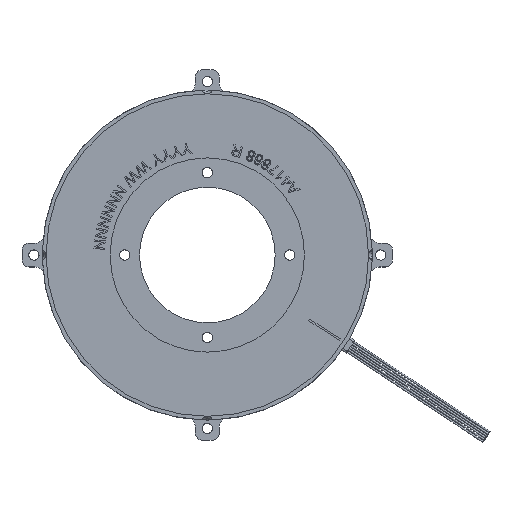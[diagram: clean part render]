
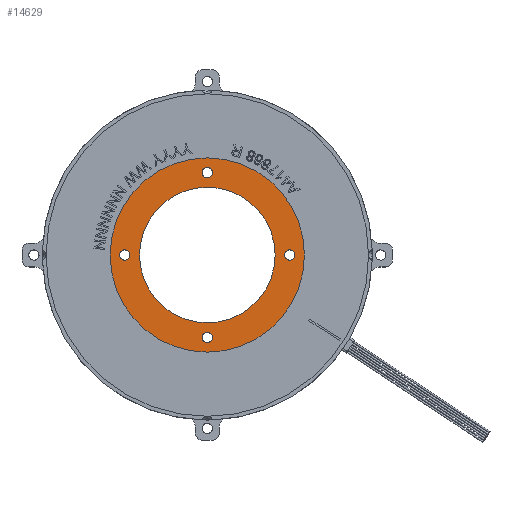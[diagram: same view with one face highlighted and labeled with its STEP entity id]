
A CAD part, top view. The second image highlights one B-rep face of the part: STEP entity #14629.
In plain terms, the highlighted planar face has unit normal (0, 0, 1).
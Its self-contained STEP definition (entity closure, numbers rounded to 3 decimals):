
#562=CIRCLE('',#15580,1.4);
#563=CIRCLE('',#15581,1.4);
#564=CIRCLE('',#15582,1.4);
#565=CIRCLE('',#15583,1.4);
#566=CIRCLE('',#15584,18.5);
#567=CIRCLE('',#15585,26.5);
#3078=ORIENTED_EDGE('',*,*,#5536,.F.);
#3079=ORIENTED_EDGE('',*,*,#5537,.F.);
#3080=ORIENTED_EDGE('',*,*,#5538,.F.);
#3081=ORIENTED_EDGE('',*,*,#5539,.F.);
#3082=ORIENTED_EDGE('',*,*,#5540,.T.);
#3083=ORIENTED_EDGE('',*,*,#5541,.F.);
#5536=EDGE_CURVE('',#6960,#6960,#562,.T.);
#5537=EDGE_CURVE('',#6961,#6961,#563,.T.);
#5538=EDGE_CURVE('',#6962,#6962,#564,.T.);
#5539=EDGE_CURVE('',#6963,#6963,#565,.T.);
#5540=EDGE_CURVE('',#6964,#6964,#566,.T.);
#5541=EDGE_CURVE('',#6965,#6965,#567,.T.);
#6960=VERTEX_POINT('',#24078);
#6961=VERTEX_POINT('',#24080);
#6962=VERTEX_POINT('',#24082);
#6963=VERTEX_POINT('',#24084);
#6964=VERTEX_POINT('',#24086);
#6965=VERTEX_POINT('',#24088);
#10307=EDGE_LOOP('',(#3078));
#10308=EDGE_LOOP('',(#3079));
#10309=EDGE_LOOP('',(#3080));
#10310=EDGE_LOOP('',(#3081));
#10311=EDGE_LOOP('',(#3082));
#10312=EDGE_LOOP('',(#3083));
#11229=FACE_BOUND('',#10307,.T.);
#11230=FACE_BOUND('',#10308,.T.);
#11231=FACE_BOUND('',#10309,.T.);
#11232=FACE_BOUND('',#10310,.T.);
#11233=FACE_BOUND('',#10311,.T.);
#11234=FACE_BOUND('',#10312,.T.);
#11871=PLANE('',#15579);
#14629=ADVANCED_FACE('',(#11229,#11230,#11231,#11232,#11233,#11234),#11871,
 .T.);
#15579=AXIS2_PLACEMENT_3D('',#24076,#17962,#17963);
#15580=AXIS2_PLACEMENT_3D('',#24077,#17964,#17965);
#15581=AXIS2_PLACEMENT_3D('',#24079,#17966,#17967);
#15582=AXIS2_PLACEMENT_3D('',#24081,#17968,#17969);
#15583=AXIS2_PLACEMENT_3D('',#24083,#17970,#17971);
#15584=AXIS2_PLACEMENT_3D('',#24085,#17972,#17973);
#15585=AXIS2_PLACEMENT_3D('',#24087,#17974,#17975);
#17962=DIRECTION('',(0.,0.,1.));
#17963=DIRECTION('',(1.,0.,0.));
#17964=DIRECTION('',(0.,0.,1.));
#17965=DIRECTION('',(0.,1.,0.));
#17966=DIRECTION('',(0.,0.,1.));
#17967=DIRECTION('',(0.,1.,0.));
#17968=DIRECTION('',(0.,0.,1.));
#17969=DIRECTION('',(0.,1.,0.));
#17970=DIRECTION('',(0.,0.,1.));
#17971=DIRECTION('',(0.,1.,0.));
#17972=DIRECTION('',(0.,0.,-1.));
#17973=DIRECTION('',(-1.,0.,0.));
#17974=DIRECTION('',(0.,0.,-1.));
#17975=DIRECTION('',(-1.,0.,0.));
#24076=CARTESIAN_POINT('',(-26.5,0.,2.5));
#24077=CARTESIAN_POINT('',(22.5,0.,2.5));
#24078=CARTESIAN_POINT('',(22.5,1.4,2.5));
#24079=CARTESIAN_POINT('',(0.,22.5,2.5));
#24080=CARTESIAN_POINT('',(0.,23.9,2.5));
#24081=CARTESIAN_POINT('',(0.,-22.5,2.5));
#24082=CARTESIAN_POINT('',(0.,-21.1,2.5));
#24083=CARTESIAN_POINT('',(-22.5,0.,2.5));
#24084=CARTESIAN_POINT('',(-22.5,1.4,2.5));
#24085=CARTESIAN_POINT('',(0.,0.,2.5));
#24086=CARTESIAN_POINT('',(-18.5,0.,2.5));
#24087=CARTESIAN_POINT('',(0.,0.,2.5));
#24088=CARTESIAN_POINT('',(-26.5,0.,2.5));
